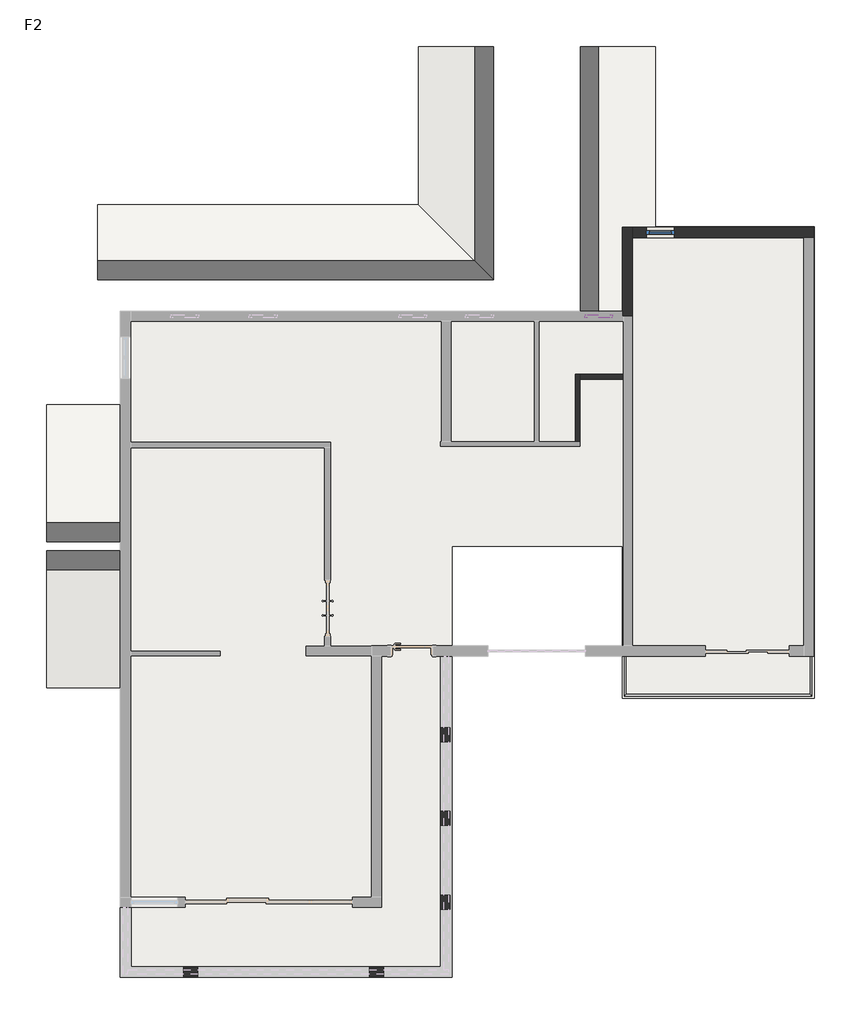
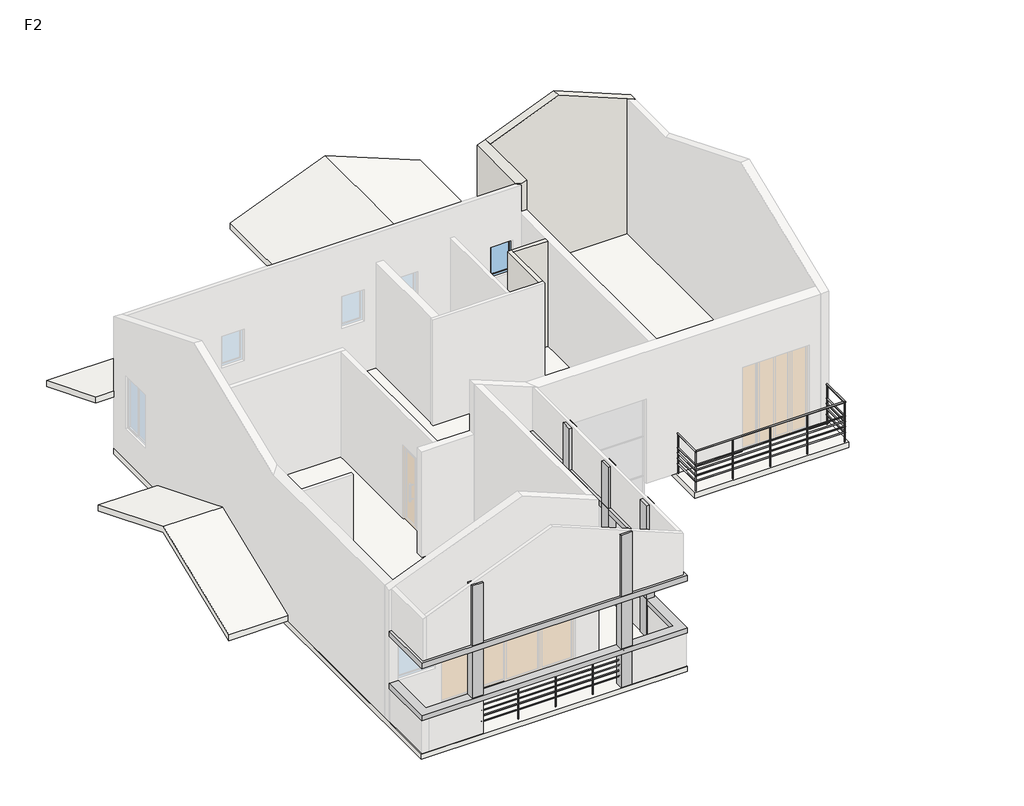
# One storey, part 2 of 2: 5 columns, 4 walls, 3 roofs, 2 railings, 2 windows, 1 proxy, 1 slab.
"""IFC4 building model written with IfcOpenShell, lengths in millimetres."""

from ifc_helpers import new_model, si_unit, point, frame, frame_2d, origin, place, context, project, spatial, polyline, circle_curve, ellipse_curve, trimmed, segment, composite_curve, outline, extrude, faceted_brep, transform, mapped, element, save
from ifc_brep_helpers import plane_surface, cylinder_surface, advanced_brep
from components import specialty_equipment_79bc4128, c0615_c0609_9743c050, c0615_c0615_013a5557

model = new_model("IFC4")

# Units and contexts
model_context = context("Model", 3, world=origin())
ifc_project = project(units=[si_unit("LENGTHUNIT", "METRE", prefix="MILLI")], contexts=[model_context])

# Site, building, storey
site = spatial("IfcSite", under=ifc_project)
building = spatial("IfcBuilding", under=site)
storey = spatial("IfcBuildingStorey", under=building, Name="F2", Elevation=3300.0)

# Proxy
placement = place(None, origin())
specialty_equipment_shape = specialty_equipment_79bc4128(model_context)
element("IfcBuildingElementProxy", 1, Name="专用设备 1 : 专用设备 1", ObjectType="专用设备 1 : 专用设备 1", at=placement, inside=storey, context=model_context, shape_type="MappedRepresentation", body=[
    mapped(specialty_equipment_shape, transform((0.0, 0.0, 0.0), x_axis=(1.0, 0.0, 0.0), y_axis=(0.0, 1.0, 0.0), z_axis=(0.0, 0.0, 1.0))),
])

# Columns
element("IfcColumn", 2, ObjectType="矩形柱 : 300*200", at=placement, inside=storey, context=model_context, shape_type="SweptSolid", body=[
    extrude(outline(polyline([(7057.5051541, -10075.9782681), (3300.0, -10075.9782681), (3300.0, -10055.9782681), (4250.0, -10055.9782681), (4250.0, -9875.9782681), (7057.5051541, -9875.9782681), (7057.5051541, -9905.9782681), (5885.0, -9905.9782681), (5885.0, -10005.9782681), (7057.5051541, -10005.9782681), (7057.5051541, -10075.9782681)])), frame((0.0, -10481.0286905, 0.0), z_axis=(0.0, 1.0, 0.0), x_axis=(0.0, 0.0, 1.0)), (0.0, 0.0, 1.0), 300.0),
])
element("IfcColumn", 3, ObjectType="矩形柱 : 300*200", at=placement, inside=storey, context=model_context, shape_type="SweptSolid", body=[
    extrude(outline(polyline([(7057.5051541, -10075.9782681), (3300.0, -10075.9782681), (3300.0, -10055.9782681), (4250.0, -10055.9782681), (4250.0, -9875.9782681), (7057.5051541, -9875.9782681), (7057.5051541, -9905.9782681), (5885.0, -9905.9782681), (5885.0, -10005.9782681), (7057.5051541, -10005.9782681), (7057.5051541, -10075.9782681)])), frame((0.0, -12281.0286905, 0.0), z_axis=(0.0, 1.0, 0.0), x_axis=(0.0, 0.0, 1.0)), (0.0, 0.0, 1.0), 300.0),
])
element("IfcColumn", 4, ObjectType="矩形柱 : 300*200", at=placement, inside=storey, context=model_context, shape_type="SweptSolid", body=[
    extrude(outline(polyline([(7057.5051541, -10075.9782681), (3300.0, -10075.9782681), (3300.0, -10055.9782681), (4250.0, -10055.9782681), (4250.0, -9875.9782681), (7057.5051541, -9875.9782681), (7057.5051541, -9905.9782681), (5885.0, -9905.9782681), (5885.0, -10005.9782681), (7057.5051541, -10005.9782681), (7057.5051541, -10075.9782681)])), frame((0.0, -14081.0286905, 0.0), z_axis=(0.0, 1.0, 0.0), x_axis=(0.0, 0.0, 1.0)), (0.0, 0.0, 1.0), 300.0),
])
element("IfcColumn", 5, ObjectType="矩形柱 : 300*200", at=placement, inside=storey, context=model_context, shape_type="Brep", body=[
    faceted_brep([(-11605.9782681, -15531.0286905, 7635.262657), (-11305.9782681, -15531.0286905, 7635.262657), (-11305.9782681, -15481.0286905, 7635.262657), (-11605.9782681, -15481.0286905, 7635.262657), (-11305.9782681, -15531.0286905, 3300.0), (-11605.9782681, -15531.0286905, 3300.0), (-11605.9782681, -15331.0286905, 3300.0), (-11305.9782681, -15331.0286905, 3300.0), (-11305.9782681, -15331.0286905, 4250.0), (-11305.9782681, -15331.0286905, 7635.262657), (-11305.9782681, -15381.0286905, 7635.262657), (-11305.9782681, -15381.0286905, 5885.0), (-11305.9782681, -15481.0286905, 5885.0), (-11305.9782681, -15531.0286905, 4250.0), (-11605.9782681, -15331.0286905, 7635.262657), (-11605.9782681, -15481.0286905, 5885.0), (-11605.9782681, -15381.0286905, 5885.0), (-11605.9782681, -15381.0286905, 7635.262657)], [[[0, 1, 2, 3]], [[4, 5, 6, 7]], [[4, 7, 8, 9, 10, 11, 12, 2, 1, 13]], [[14, 9, 8, 7, 6]], [[6, 5, 0, 3, 15, 16, 17, 14]], [[1, 0, 5, 4, 13]], [[12, 15, 3, 2]], [[16, 11, 10, 17]], [[15, 12, 11, 16]], [[9, 14, 17, 10]]]),
])
element("IfcColumn", 6, ObjectType="矩形柱 : 300*200", at=placement, inside=storey, context=model_context, shape_type="SweptSolid", body=[
    extrude(outline(polyline([(-15331.0286905, 7594.8600344), (-15331.0286905, 4250.0), (-15531.0286905, 4250.0), (-15531.0286905, 7594.8600344), (-15481.0286905, 7594.8600344), (-15481.0286905, 5885.0), (-15381.0286905, 5885.0), (-15381.0286905, 7594.8600344), (-15331.0286905, 7594.8600344)])), frame((-15605.9782681, 0.0, 0.0), z_axis=(1.0, 0.0, 0.0), x_axis=(0.0, 1.0, 0.0)), (0.0, 0.0, 1.0), 300.0),
])

# Railings
element("IfcRailing", 7, ObjectType="900mm 圆管", at=placement, inside=storey, context=model_context, shape_type="SolidModel", body=[
    advanced_brep(
    [(-2125.9782681, -8651.0286905, 4430.0), (-2085.9782681, -8651.0286905, 4430.0), (-2125.9782681, -9461.0286905, 4430.0), (-2085.9782681, -9501.0286905, 4430.0), (-6085.9782681, -9461.0286905, 4430.0), (-6125.9782681, -9501.0286905, 4430.0), (-6085.9782681, -8651.0286905, 4430.0), (-6125.9782681, -8651.0286905, 4430.0)],
    [
        (0, 1, circle_curve(frame((-2105.9782681, -8651.0286905, 4430.0), z_axis=(0.0, 1.0, 0.0), x_axis=(1.0, 0.0, 0.0)), 20.0)),
        (1, 0, circle_curve(frame((-2105.9782681, -8651.0286905, 4430.0), z_axis=(0.0, 1.0, 0.0), x_axis=(1.0, 0.0, 0.0)), 20.0)),
        (0, 2),
        (2, 3, ellipse_curve(frame((-2105.9782681, -9481.0286905, 4430.0), z_axis=(0.7071067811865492, 0.7071067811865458, 0.0), x_axis=(-0.7071067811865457, 0.7071067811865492, 0.0)), 28.2842712, 20.0)),
        (3, 1),
        (3, 2, ellipse_curve(frame((-2105.9782681, -9481.0286905, 4430.0), z_axis=(0.7071067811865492, 0.7071067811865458, 0.0), x_axis=(-0.7071067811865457, 0.7071067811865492, 0.0)), 28.2842712, 20.0)),
        (2, 4),
        (4, 5, ellipse_curve(frame((-6105.9782681, -9481.0286905, 4430.0), z_axis=(0.7071067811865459, -0.7071067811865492, 0.0), x_axis=(0.707106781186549, 0.7071067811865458, 0.0)), 28.2842712, 20.0)),
        (5, 3),
        (5, 4, ellipse_curve(frame((-6105.9782681, -9481.0286905, 4430.0), z_axis=(0.7071067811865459, -0.7071067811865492, 0.0), x_axis=(0.707106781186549, 0.7071067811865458, 0.0)), 28.2842712, 20.0)),
        (6, 7, circle_curve(frame((-6105.9782681, -8651.0286905, 4430.0), z_axis=(0.0, 1.0, 0.0), x_axis=(-1.0, 0.0, 0.0)), 20.0)),
        (7, 6, circle_curve(frame((-6105.9782681, -8651.0286905, 4430.0), z_axis=(0.0, 1.0, 0.0), x_axis=(-1.0, 0.0, 0.0)), 20.0)),
        (4, 6),
        (7, 5),
    ],
    [
        plane_surface(frame((-2105.9782681, -8651.0286905, 4450.0), z_axis=(0.0, 1.0, 0.0), x_axis=(0.0, 0.0, -1.0))),
        cylinder_surface(frame((-2105.9782681, -8651.0286905, 4430.0), z_axis=(0.0, 1.0, 0.0), x_axis=(1.0, 0.0, 0.0)), 20.0),
        cylinder_surface(frame((-2105.9782681, -9481.0286905, 4430.0), z_axis=(1.0, 0.0, 0.0), x_axis=(0.0, -1.0, 0.0)), 20.0),
        plane_surface(frame((-6105.9782681, -8651.0286905, 4450.0), z_axis=(0.0, 1.0, 0.0), x_axis=(0.0, 0.0, 1.0))),
        cylinder_surface(frame((-6105.9782681, -9481.0286905, 4430.0), z_axis=(0.0, -1.0, 0.0), x_axis=(-1.0, 0.0, 0.0)), 20.0),
    ],
    [
        (0, [[1, 2]]),
        (1, [[-1, 3, 4, 5]]),
        (1, [[-2, -5, 6, -3]]),
        (2, [[-4, 7, 8, 9]]),
        (2, [[-6, -9, 10, -7]]),
        (3, [[11, 12]]),
        (4, [[-8, 13, -12, 14]]),
        (4, [[-10, -14, -11, -13]]),
    ],
),
    advanced_brep(
    [(-2090.9782681, -8651.0286905, 4035.0), (-2120.9782681, -8651.0286905, 4035.0), (-2090.9782681, -9496.0286905, 4035.0), (-2120.9782681, -9466.0286905, 4035.0), (-6120.9782681, -9496.0286905, 4035.0), (-6090.9782681, -9466.0286905, 4035.0), (-6120.9782681, -8651.0286905, 4035.0), (-6090.9782681, -8651.0286905, 4035.0)],
    [
        (0, 1, circle_curve(frame((-2105.9782681, -8651.0286905, 4035.0), z_axis=(0.0, 1.0, 0.0), x_axis=(-1.0, 0.0, 0.0)), 15.0)),
        (1, 0, circle_curve(frame((-2105.9782681, -8651.0286905, 4035.0), z_axis=(0.0, 1.0, 0.0), x_axis=(-1.0, 0.0, 0.0)), 15.0)),
        (0, 2),
        (2, 3, ellipse_curve(frame((-2105.9782681, -9481.0286905, 4035.0), z_axis=(0.7071067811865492, 0.7071067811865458, 0.0), x_axis=(-0.7071067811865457, 0.7071067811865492, 0.0)), 21.2132034, 15.0)),
        (3, 1),
        (3, 2, ellipse_curve(frame((-2105.9782681, -9481.0286905, 4035.0), z_axis=(0.7071067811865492, 0.7071067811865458, 0.0), x_axis=(-0.7071067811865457, 0.7071067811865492, 0.0)), 21.2132034, 15.0)),
        (2, 4),
        (4, 5, ellipse_curve(frame((-6105.9782681, -9481.0286905, 4035.0), z_axis=(0.7071067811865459, -0.7071067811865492, 0.0), x_axis=(0.707106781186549, 0.7071067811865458, 0.0)), 21.2132034, 15.0)),
        (5, 3),
        (5, 4, ellipse_curve(frame((-6105.9782681, -9481.0286905, 4035.0), z_axis=(0.7071067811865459, -0.7071067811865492, 0.0), x_axis=(0.707106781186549, 0.7071067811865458, 0.0)), 21.2132034, 15.0)),
        (6, 7, circle_curve(frame((-6105.9782681, -8651.0286905, 4035.0), z_axis=(0.0, 1.0, 0.0), x_axis=(1.0, 0.0, 0.0)), 15.0)),
        (7, 6, circle_curve(frame((-6105.9782681, -8651.0286905, 4035.0), z_axis=(0.0, 1.0, 0.0), x_axis=(1.0, 0.0, 0.0)), 15.0)),
        (4, 6),
        (7, 5),
    ],
    [
        plane_surface(frame((-2105.9782681, -8651.0286905, 4050.0), z_axis=(0.0, 1.0, 0.0), x_axis=(0.0, 0.0, -1.0))),
        cylinder_surface(frame((-2105.9782681, -8651.0286905, 4035.0), z_axis=(0.0, 1.0, 0.0), x_axis=(-1.0, 0.0, 0.0)), 15.0),
        cylinder_surface(frame((-2105.9782681, -9481.0286905, 4035.0), z_axis=(1.0, 0.0, 0.0), x_axis=(0.0, 1.0, 0.0)), 15.0),
        plane_surface(frame((-6105.9782681, -8651.0286905, 4050.0), z_axis=(0.0, 1.0, 0.0), x_axis=(0.0, 0.0, 1.0))),
        cylinder_surface(frame((-6105.9782681, -9481.0286905, 4035.0), z_axis=(0.0, -1.0, 0.0), x_axis=(1.0, 0.0, 0.0)), 15.0),
    ],
    [
        (0, [[1, 2]]),
        (1, [[-1, 3, 4, 5]]),
        (1, [[-2, -5, 6, -3]]),
        (2, [[-4, 7, 8, 9]]),
        (2, [[-6, -9, 10, -7]]),
        (3, [[11, 12]]),
        (4, [[-8, 13, -12, 14]]),
        (4, [[-10, -14, -11, -13]]),
    ],
),
    advanced_brep(
    [(-2090.9782681, -8651.0286905, 3885.0), (-2120.9782681, -8651.0286905, 3885.0), (-2090.9782681, -9496.0286905, 3885.0), (-2120.9782681, -9466.0286905, 3885.0), (-6120.9782681, -9496.0286905, 3885.0), (-6090.9782681, -9466.0286905, 3885.0), (-6120.9782681, -8651.0286905, 3885.0), (-6090.9782681, -8651.0286905, 3885.0)],
    [
        (0, 1, circle_curve(frame((-2105.9782681, -8651.0286905, 3885.0), z_axis=(0.0, 1.0, 0.0), x_axis=(-1.0, 0.0, 0.0)), 15.0)),
        (1, 0, circle_curve(frame((-2105.9782681, -8651.0286905, 3885.0), z_axis=(0.0, 1.0, 0.0), x_axis=(-1.0, 0.0, 0.0)), 15.0)),
        (0, 2),
        (2, 3, ellipse_curve(frame((-2105.9782681, -9481.0286905, 3885.0), z_axis=(0.7071067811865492, 0.7071067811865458, 0.0), x_axis=(-0.7071067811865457, 0.7071067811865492, 0.0)), 21.2132034, 15.0)),
        (3, 1),
        (3, 2, ellipse_curve(frame((-2105.9782681, -9481.0286905, 3885.0), z_axis=(0.7071067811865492, 0.7071067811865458, 0.0), x_axis=(-0.7071067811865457, 0.7071067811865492, 0.0)), 21.2132034, 15.0)),
        (2, 4),
        (4, 5, ellipse_curve(frame((-6105.9782681, -9481.0286905, 3885.0), z_axis=(0.7071067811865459, -0.7071067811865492, 0.0), x_axis=(0.707106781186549, 0.7071067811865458, 0.0)), 21.2132034, 15.0)),
        (5, 3),
        (5, 4, ellipse_curve(frame((-6105.9782681, -9481.0286905, 3885.0), z_axis=(0.7071067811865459, -0.7071067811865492, 0.0), x_axis=(0.707106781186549, 0.7071067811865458, 0.0)), 21.2132034, 15.0)),
        (6, 7, circle_curve(frame((-6105.9782681, -8651.0286905, 3885.0), z_axis=(0.0, 1.0, 0.0), x_axis=(1.0, 0.0, 0.0)), 15.0)),
        (7, 6, circle_curve(frame((-6105.9782681, -8651.0286905, 3885.0), z_axis=(0.0, 1.0, 0.0), x_axis=(1.0, 0.0, 0.0)), 15.0)),
        (4, 6),
        (7, 5),
    ],
    [
        plane_surface(frame((-2105.9782681, -8651.0286905, 3900.0), z_axis=(0.0, 1.0, 0.0), x_axis=(0.0, 0.0, -1.0))),
        cylinder_surface(frame((-2105.9782681, -8651.0286905, 3885.0), z_axis=(0.0, 1.0, 0.0), x_axis=(-1.0, 0.0, 0.0)), 15.0),
        cylinder_surface(frame((-2105.9782681, -9481.0286905, 3885.0), z_axis=(1.0, 0.0, 0.0), x_axis=(0.0, 1.0, 0.0)), 15.0),
        plane_surface(frame((-6105.9782681, -8651.0286905, 3900.0), z_axis=(0.0, 1.0, 0.0), x_axis=(0.0, 0.0, 1.0))),
        cylinder_surface(frame((-6105.9782681, -9481.0286905, 3885.0), z_axis=(0.0, -1.0, 0.0), x_axis=(1.0, 0.0, 0.0)), 15.0),
    ],
    [
        (0, [[1, 2]]),
        (1, [[-1, 3, 4, 5]]),
        (1, [[-2, -5, 6, -3]]),
        (2, [[-4, 7, 8, 9]]),
        (2, [[-6, -9, 10, -7]]),
        (3, [[11, 12]]),
        (4, [[-8, 13, -12, 14]]),
        (4, [[-10, -14, -11, -13]]),
    ],
),
    advanced_brep(
    [(-2090.9782681, -8651.0286905, 3735.0), (-2120.9782681, -8651.0286905, 3735.0), (-2090.9782681, -9496.0286905, 3735.0), (-2120.9782681, -9466.0286905, 3735.0), (-6120.9782681, -9496.0286905, 3735.0), (-6090.9782681, -9466.0286905, 3735.0), (-6120.9782681, -8651.0286905, 3735.0), (-6090.9782681, -8651.0286905, 3735.0)],
    [
        (0, 1, circle_curve(frame((-2105.9782681, -8651.0286905, 3735.0), z_axis=(0.0, 1.0, 0.0), x_axis=(-1.0, 0.0, 0.0)), 15.0)),
        (1, 0, circle_curve(frame((-2105.9782681, -8651.0286905, 3735.0), z_axis=(0.0, 1.0, 0.0), x_axis=(-1.0, 0.0, 0.0)), 15.0)),
        (0, 2),
        (2, 3, ellipse_curve(frame((-2105.9782681, -9481.0286905, 3735.0), z_axis=(0.7071067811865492, 0.7071067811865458, 0.0), x_axis=(-0.7071067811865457, 0.7071067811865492, 0.0)), 21.2132034, 15.0)),
        (3, 1),
        (3, 2, ellipse_curve(frame((-2105.9782681, -9481.0286905, 3735.0), z_axis=(0.7071067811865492, 0.7071067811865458, 0.0), x_axis=(-0.7071067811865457, 0.7071067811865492, 0.0)), 21.2132034, 15.0)),
        (2, 4),
        (4, 5, ellipse_curve(frame((-6105.9782681, -9481.0286905, 3735.0), z_axis=(0.7071067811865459, -0.7071067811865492, 0.0), x_axis=(0.707106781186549, 0.7071067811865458, 0.0)), 21.2132034, 15.0)),
        (5, 3),
        (5, 4, ellipse_curve(frame((-6105.9782681, -9481.0286905, 3735.0), z_axis=(0.7071067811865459, -0.7071067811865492, 0.0), x_axis=(0.707106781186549, 0.7071067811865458, 0.0)), 21.2132034, 15.0)),
        (6, 7, circle_curve(frame((-6105.9782681, -8651.0286905, 3735.0), z_axis=(0.0, 1.0, 0.0), x_axis=(1.0, 0.0, 0.0)), 15.0)),
        (7, 6, circle_curve(frame((-6105.9782681, -8651.0286905, 3735.0), z_axis=(0.0, 1.0, 0.0), x_axis=(1.0, 0.0, 0.0)), 15.0)),
        (4, 6),
        (7, 5),
    ],
    [
        plane_surface(frame((-2105.9782681, -8651.0286905, 3750.0), z_axis=(0.0, 1.0, 0.0), x_axis=(0.0, 0.0, -1.0))),
        cylinder_surface(frame((-2105.9782681, -8651.0286905, 3735.0), z_axis=(0.0, 1.0, 0.0), x_axis=(-1.0, 0.0, 0.0)), 15.0),
        cylinder_surface(frame((-2105.9782681, -9481.0286905, 3735.0), z_axis=(1.0, 0.0, 0.0), x_axis=(0.0, 1.0, 0.0)), 15.0),
        plane_surface(frame((-6105.9782681, -8651.0286905, 3750.0), z_axis=(0.0, 1.0, 0.0), x_axis=(0.0, 0.0, 1.0))),
        cylinder_surface(frame((-6105.9782681, -9481.0286905, 3735.0), z_axis=(0.0, -1.0, 0.0), x_axis=(1.0, 0.0, 0.0)), 15.0),
    ],
    [
        (0, [[1, 2]]),
        (1, [[-1, 3, 4, 5]]),
        (1, [[-2, -5, 6, -3]]),
        (2, [[-4, 7, 8, 9]]),
        (2, [[-6, -9, 10, -7]]),
        (3, [[11, 12]]),
        (4, [[-8, 13, -12, 14]]),
        (4, [[-10, -14, -11, -13]]),
    ],
),
    advanced_brep(
    [(-2090.9782681, -8651.0286905, 3573.0), (-2120.9782681, -8651.0286905, 3573.0), (-2090.9782681, -9496.0286905, 3573.0), (-2120.9782681, -9466.0286905, 3573.0), (-6120.9782681, -9496.0286905, 3573.0), (-6090.9782681, -9466.0286905, 3573.0), (-6120.9782681, -8651.0286905, 3573.0), (-6090.9782681, -8651.0286905, 3573.0)],
    [
        (0, 1, circle_curve(frame((-2105.9782681, -8651.0286905, 3573.0), z_axis=(0.0, 1.0, 0.0), x_axis=(-1.0, 0.0, 0.0)), 15.0)),
        (1, 0, circle_curve(frame((-2105.9782681, -8651.0286905, 3573.0), z_axis=(0.0, 1.0, 0.0), x_axis=(-1.0, 0.0, 0.0)), 15.0)),
        (0, 2),
        (2, 3, ellipse_curve(frame((-2105.9782681, -9481.0286905, 3573.0), z_axis=(0.7071067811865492, 0.7071067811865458, 0.0), x_axis=(-0.7071067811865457, 0.7071067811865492, 0.0)), 21.2132034, 15.0)),
        (3, 1),
        (3, 2, ellipse_curve(frame((-2105.9782681, -9481.0286905, 3573.0), z_axis=(0.7071067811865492, 0.7071067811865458, 0.0), x_axis=(-0.7071067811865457, 0.7071067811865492, 0.0)), 21.2132034, 15.0)),
        (2, 4),
        (4, 5, ellipse_curve(frame((-6105.9782681, -9481.0286905, 3573.0), z_axis=(0.7071067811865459, -0.7071067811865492, 0.0), x_axis=(0.707106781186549, 0.7071067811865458, 0.0)), 21.2132034, 15.0)),
        (5, 3),
        (5, 4, ellipse_curve(frame((-6105.9782681, -9481.0286905, 3573.0), z_axis=(0.7071067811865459, -0.7071067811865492, 0.0), x_axis=(0.707106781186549, 0.7071067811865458, 0.0)), 21.2132034, 15.0)),
        (6, 7, circle_curve(frame((-6105.9782681, -8651.0286905, 3573.0), z_axis=(0.0, 1.0, 0.0), x_axis=(1.0, 0.0, 0.0)), 15.0)),
        (7, 6, circle_curve(frame((-6105.9782681, -8651.0286905, 3573.0), z_axis=(0.0, 1.0, 0.0), x_axis=(1.0, 0.0, 0.0)), 15.0)),
        (4, 6),
        (7, 5),
    ],
    [
        plane_surface(frame((-2105.9782681, -8651.0286905, 3588.0), z_axis=(0.0, 1.0, 0.0), x_axis=(0.0, 0.0, -1.0))),
        cylinder_surface(frame((-2105.9782681, -8651.0286905, 3573.0), z_axis=(0.0, 1.0, 0.0), x_axis=(-1.0, 0.0, 0.0)), 15.0),
        cylinder_surface(frame((-2105.9782681, -9481.0286905, 3573.0), z_axis=(1.0, 0.0, 0.0), x_axis=(0.0, 1.0, 0.0)), 15.0),
        plane_surface(frame((-6105.9782681, -8651.0286905, 3588.0), z_axis=(0.0, 1.0, 0.0), x_axis=(0.0, 0.0, 1.0))),
        cylinder_surface(frame((-6105.9782681, -9481.0286905, 3573.0), z_axis=(0.0, -1.0, 0.0), x_axis=(1.0, 0.0, 0.0)), 15.0),
    ],
    [
        (0, [[1, 2]]),
        (1, [[-1, 3, 4, 5]]),
        (1, [[-2, -5, 6, -3]]),
        (2, [[-4, 7, 8, 9]]),
        (2, [[-6, -9, 10, -7]]),
        (3, [[11, 12]]),
        (4, [[-8, 13, -12, 14]]),
        (4, [[-10, -14, -11, -13]]),
    ],
),
    extrude(outline(composite_curve([segment(trimmed(circle_curve(frame_2d((-5105.9782681, -9481.0286905)), 12.5), [point((-5105.9782681, -9493.5286905))], [point((-5105.9782681, -9468.5286905))], False, "CARTESIAN"), True, "CONTINUOUS"), segment(trimmed(circle_curve(frame_2d((-5105.9782681, -9481.0286905)), 12.5), [point((-5105.9782681, -9468.5286905))], [point((-5105.9782681, -9493.5286905))], False, "CARTESIAN"), True, "CONTINUOUS")], self_intersect=False)), frame((0.0, 0.0, 3300.0), z_axis=(0.0, 0.0, 1.0), x_axis=(1.0, 0.0, 0.0)), (0.0, 0.0, 1.0), 1110.0),
    extrude(outline(composite_curve([segment(trimmed(circle_curve(frame_2d((-4105.9782681, -9481.0286905)), 12.5), [point((-4105.9782681, -9493.5286905))], [point((-4105.9782681, -9468.5286905))], False, "CARTESIAN"), True, "CONTINUOUS"), segment(trimmed(circle_curve(frame_2d((-4105.9782681, -9481.0286905)), 12.5), [point((-4105.9782681, -9468.5286905))], [point((-4105.9782681, -9493.5286905))], False, "CARTESIAN"), True, "CONTINUOUS")], self_intersect=False)), frame((0.0, 0.0, 3300.0), z_axis=(0.0, 0.0, 1.0), x_axis=(1.0, 0.0, 0.0)), (0.0, 0.0, 1.0), 1110.0),
    extrude(outline(composite_curve([segment(trimmed(circle_curve(frame_2d((-3105.9782681, -9481.0286905)), 12.5), [point((-3105.9782681, -9493.5286905))], [point((-3105.9782681, -9468.5286905))], False, "CARTESIAN"), True, "CONTINUOUS"), segment(trimmed(circle_curve(frame_2d((-3105.9782681, -9481.0286905)), 12.5), [point((-3105.9782681, -9468.5286905))], [point((-3105.9782681, -9493.5286905))], False, "CARTESIAN"), True, "CONTINUOUS")], self_intersect=False)), frame((0.0, 0.0, 3300.0), z_axis=(0.0, 0.0, 1.0), x_axis=(1.0, 0.0, 0.0)), (0.0, 0.0, 1.0), 1110.0),
    extrude(outline(composite_curve([segment(trimmed(circle_curve(frame_2d((-6105.9782681, -9481.0286905)), 12.5), [point((-6105.9782681, -9493.5286905))], [point((-6105.9782681, -9468.5286905))], False, "CARTESIAN"), True, "CONTINUOUS"), segment(trimmed(circle_curve(frame_2d((-6105.9782681, -9481.0286905)), 12.5), [point((-6105.9782681, -9468.5286905))], [point((-6105.9782681, -9493.5286905))], False, "CARTESIAN"), True, "CONTINUOUS")], self_intersect=False)), frame((0.0, 0.0, 3300.0), z_axis=(0.0, 0.0, 1.0), x_axis=(1.0, 0.0, 0.0)), (0.0, 0.0, 1.0), 1110.0),
    extrude(outline(composite_curve([segment(trimmed(circle_curve(frame_2d((-2105.9782681, -9481.0286905)), 12.5), [point((-2093.4782681, -9481.0286905))], [point((-2118.4782681, -9481.0286905))], False, "CARTESIAN"), True, "CONTINUOUS"), segment(trimmed(circle_curve(frame_2d((-2105.9782681, -9481.0286905)), 12.5), [point((-2118.4782681, -9481.0286905))], [point((-2093.4782681, -9481.0286905))], False, "CARTESIAN"), True, "CONTINUOUS")], self_intersect=False)), frame((0.0, 0.0, 3300.0), z_axis=(0.0, 0.0, 1.0), x_axis=(1.0, 0.0, 0.0)), (0.0, 0.0, 1.0), 1110.0),
    extrude(outline(composite_curve([segment(trimmed(circle_curve(frame_2d((-6105.9782681, -8663.5286905)), 12.5), [point((-6118.4782681, -8663.5286905))], [point((-6093.4782681, -8663.5286905))], False, "CARTESIAN"), True, "CONTINUOUS"), segment(trimmed(circle_curve(frame_2d((-6105.9782681, -8663.5286905)), 12.5), [point((-6093.4782681, -8663.5286905))], [point((-6118.4782681, -8663.5286905))], False, "CARTESIAN"), True, "CONTINUOUS")], self_intersect=False)), frame((0.0, 0.0, 3300.0), z_axis=(0.0, 0.0, 1.0), x_axis=(1.0, 0.0, 0.0)), (0.0, 0.0, 1.0), 1110.0),
    extrude(outline(composite_curve([segment(trimmed(circle_curve(frame_2d((-2105.9782681, -8663.5286905)), 12.5), [point((-2093.4782681, -8663.5286905))], [point((-2118.4782681, -8663.5286905))], False, "CARTESIAN"), True, "CONTINUOUS"), segment(trimmed(circle_curve(frame_2d((-2105.9782681, -8663.5286905)), 12.5), [point((-2118.4782681, -8663.5286905))], [point((-2093.4782681, -8663.5286905))], False, "CARTESIAN"), True, "CONTINUOUS")], self_intersect=False)), frame((0.0, 0.0, 3300.0), z_axis=(0.0, 0.0, 1.0), x_axis=(1.0, 0.0, 0.0)), (0.0, 0.0, 1.0), 1110.0),
])
element("IfcRailing", 8, ObjectType="900mm 圆管 2", at=placement, inside=storey, context=model_context, shape_type="SweptSolid", body=[
    extrude(outline(composite_curve([segment(trimmed(circle_curve(frame_2d((-15431.0286905, 4280.0)), 20.0), [point((-15451.0286905, 4280.0))], [point((-15411.0286905, 4280.0))], False, "CARTESIAN"), True, "CONTINUOUS"), segment(trimmed(circle_curve(frame_2d((-15431.0286905, 4280.0)), 20.0), [point((-15411.0286905, 4280.0))], [point((-15451.0286905, 4280.0))], False, "CARTESIAN"), True, "CONTINUOUS")], self_intersect=False)), frame((-15305.9782681, 0.0, 0.0), z_axis=(1.0, 0.0, 0.0), x_axis=(0.0, 1.0, 0.0)), (0.0, 0.0, 1.0), 3850.0),
    extrude(outline(composite_curve([segment(trimmed(circle_curve(frame_2d((-15431.0286905, 4035.0)), 15.0), [point((-15416.0286905, 4035.0))], [point((-15446.0286905, 4035.0))], False, "CARTESIAN"), True, "CONTINUOUS"), segment(trimmed(circle_curve(frame_2d((-15431.0286905, 4035.0)), 15.0), [point((-15446.0286905, 4035.0))], [point((-15416.0286905, 4035.0))], False, "CARTESIAN"), True, "CONTINUOUS")], self_intersect=False)), frame((-15305.9782681, 0.0, 0.0), z_axis=(1.0, 0.0, 0.0), x_axis=(0.0, 1.0, 0.0)), (0.0, 0.0, 1.0), 3850.0),
    extrude(outline(composite_curve([segment(trimmed(circle_curve(frame_2d((-15431.0286905, 3885.0)), 15.0), [point((-15416.0286905, 3885.0))], [point((-15446.0286905, 3885.0))], False, "CARTESIAN"), True, "CONTINUOUS"), segment(trimmed(circle_curve(frame_2d((-15431.0286905, 3885.0)), 15.0), [point((-15446.0286905, 3885.0))], [point((-15416.0286905, 3885.0))], False, "CARTESIAN"), True, "CONTINUOUS")], self_intersect=False)), frame((-15305.9782681, 0.0, 0.0), z_axis=(1.0, 0.0, 0.0), x_axis=(0.0, 1.0, 0.0)), (0.0, 0.0, 1.0), 3850.0),
    extrude(outline(composite_curve([segment(trimmed(circle_curve(frame_2d((-15431.0286905, 3735.0)), 15.0), [point((-15416.0286905, 3735.0))], [point((-15446.0286905, 3735.0))], False, "CARTESIAN"), True, "CONTINUOUS"), segment(trimmed(circle_curve(frame_2d((-15431.0286905, 3735.0)), 15.0), [point((-15446.0286905, 3735.0))], [point((-15416.0286905, 3735.0))], False, "CARTESIAN"), True, "CONTINUOUS")], self_intersect=False)), frame((-15305.9782681, 0.0, 0.0), z_axis=(1.0, 0.0, 0.0), x_axis=(0.0, 1.0, 0.0)), (0.0, 0.0, 1.0), 3850.0),
    extrude(outline(composite_curve([segment(trimmed(circle_curve(frame_2d((-15431.0286905, 3573.0)), 15.0), [point((-15416.0286905, 3573.0))], [point((-15446.0286905, 3573.0))], False, "CARTESIAN"), True, "CONTINUOUS"), segment(trimmed(circle_curve(frame_2d((-15431.0286905, 3573.0)), 15.0), [point((-15446.0286905, 3573.0))], [point((-15416.0286905, 3573.0))], False, "CARTESIAN"), True, "CONTINUOUS")], self_intersect=False)), frame((-15305.9782681, 0.0, 0.0), z_axis=(1.0, 0.0, 0.0), x_axis=(0.0, 1.0, 0.0)), (0.0, 0.0, 1.0), 3850.0),
    extrude(outline(composite_curve([segment(trimmed(circle_curve(frame_2d((-12305.9782681, -15431.0286905)), 12.5), [point((-12305.9782681, -15418.5286905))], [point((-12305.9782681, -15443.5286905))], False, "CARTESIAN"), True, "CONTINUOUS"), segment(trimmed(circle_curve(frame_2d((-12305.9782681, -15431.0286905)), 12.5), [point((-12305.9782681, -15443.5286905))], [point((-12305.9782681, -15418.5286905))], False, "CARTESIAN"), True, "CONTINUOUS")], self_intersect=False)), frame((0.0, 0.0, 3300.0), z_axis=(0.0, 0.0, 1.0), x_axis=(1.0, 0.0, 0.0)), (0.0, 0.0, 1.0), 960.0),
    extrude(outline(composite_curve([segment(trimmed(circle_curve(frame_2d((-13305.9782681, -15431.0286905)), 12.5), [point((-13305.9782681, -15418.5286905))], [point((-13305.9782681, -15443.5286905))], False, "CARTESIAN"), True, "CONTINUOUS"), segment(trimmed(circle_curve(frame_2d((-13305.9782681, -15431.0286905)), 12.5), [point((-13305.9782681, -15443.5286905))], [point((-13305.9782681, -15418.5286905))], False, "CARTESIAN"), True, "CONTINUOUS")], self_intersect=False)), frame((0.0, 0.0, 3300.0), z_axis=(0.0, 0.0, 1.0), x_axis=(1.0, 0.0, 0.0)), (0.0, 0.0, 1.0), 960.0),
    extrude(outline(composite_curve([segment(trimmed(circle_curve(frame_2d((-14305.9782681, -15431.0286905)), 12.5), [point((-14305.9782681, -15418.5286905))], [point((-14305.9782681, -15443.5286905))], False, "CARTESIAN"), True, "CONTINUOUS"), segment(trimmed(circle_curve(frame_2d((-14305.9782681, -15431.0286905)), 12.5), [point((-14305.9782681, -15443.5286905))], [point((-14305.9782681, -15418.5286905))], False, "CARTESIAN"), True, "CONTINUOUS")], self_intersect=False)), frame((0.0, 0.0, 3300.0), z_axis=(0.0, 0.0, 1.0), x_axis=(1.0, 0.0, 0.0)), (0.0, 0.0, 1.0), 960.0),
    extrude(outline(composite_curve([segment(trimmed(circle_curve(frame_2d((-11468.4782681, -15431.0286905)), 12.5), [point((-11468.4782681, -15418.5286905))], [point((-11468.4782681, -15443.5286905))], False, "CARTESIAN"), True, "CONTINUOUS"), segment(trimmed(circle_curve(frame_2d((-11468.4782681, -15431.0286905)), 12.5), [point((-11468.4782681, -15443.5286905))], [point((-11468.4782681, -15418.5286905))], False, "CARTESIAN"), True, "CONTINUOUS")], self_intersect=False)), frame((0.0, 0.0, 3300.0), z_axis=(0.0, 0.0, 1.0), x_axis=(1.0, 0.0, 0.0)), (0.0, 0.0, 1.0), 960.0),
    extrude(outline(composite_curve([segment(trimmed(circle_curve(frame_2d((-15293.4782681, -15431.0286905)), 12.5), [point((-15293.4782681, -15418.5286905))], [point((-15293.4782681, -15443.5286905))], False, "CARTESIAN"), True, "CONTINUOUS"), segment(trimmed(circle_curve(frame_2d((-15293.4782681, -15431.0286905)), 12.5), [point((-15293.4782681, -15443.5286905))], [point((-15293.4782681, -15418.5286905))], False, "CARTESIAN"), True, "CONTINUOUS")], self_intersect=False)), frame((0.0, 0.0, 3300.0), z_axis=(0.0, 0.0, 1.0), x_axis=(1.0, 0.0, 0.0)), (0.0, 0.0, 1.0), 960.0),
])

# Roofs
element("IfcRoof", 9, ObjectType="屋顶 2", at=placement, inside=storey, context=model_context, shape_type="Brep", body=[
    faceted_brep([(-8005.9782681, 4468.9713095, 4877.6783925), (-5455.9782681, 4468.9713095, 3847.4115166), (-5455.9782681, 588.9713095, 3847.4115166), (-6175.9782681, 588.9713095, 4138.3103992), (-6175.9782681, -1221.0286905, 4138.3103992), (-8005.9782681, -1221.0286905, 4877.6783925), (-10555.9782681, 1068.9713095, 3847.4115166), (-10555.9782681, 4468.9713095, 3847.4115166), (-8265.9782681, -1221.0286905, 4772.6315738), (-5455.9782681, 4468.9713095, 4011.7802114), (-8005.9782681, 4468.9713095, 5042.0470873), (-8005.9782681, -1221.0286905, 5042.0470873), (-6175.9782681, -1221.0286905, 4302.679094), (-6175.9782681, 588.9713095, 4302.679094), (-5455.9782681, 588.9713095, 4011.7802114), (-10555.9782681, 4468.9713095, 4011.7802114), (-10555.9782681, 1068.9713095, 4011.7802114), (-8265.9782681, -1221.0286905, 4937.0002686)], [[[0, 1, 2, 3, 4, 5]], [[6, 7, 0, 5, 8]], [[9, 10, 11, 12, 13, 14]], [[15, 16, 17, 11, 10]], [[6, 16, 15, 7]], [[1, 9, 14, 2]], [[15, 10, 9, 1, 0, 7]], [[14, 13, 3, 2]], [[13, 12, 4, 3]], [[12, 11, 17, 8, 5, 4]], [[17, 16, 6, 8]]]),
])
element("IfcRoof", 10, ObjectType="屋顶 2", at=placement, inside=storey, context=model_context, shape_type="Brep", body=[
    faceted_brep([(-10555.9782681, 1068.9713095, 3847.4115166), (-8265.9782681, -1221.0286905, 4772.6315738), (-17455.9782681, -1221.0286905, 4772.6315738), (-17455.9782681, 1068.9713095, 3847.4115166), (-8265.9782681, -1221.0286905, 4937.0002686), (-10555.9782681, 1068.9713095, 4011.7802114), (-17455.9782681, 1068.9713095, 4011.7802114), (-17455.9782681, -1221.0286905, 4937.0002686)], [[[0, 1, 2, 3]], [[4, 5, 6, 7]], [[3, 6, 5, 0]], [[5, 4, 1, 0]], [[4, 7, 2, 1]], [[7, 6, 3, 2]]]),
])
element("IfcRoof", 11, ObjectType="屋顶 2", at=placement, inside=storey, context=model_context, shape_type="SweptSolid", body=[
    extrude(outline(polyline([(-9321.0286905, 3473.4754526), (-6277.4626315, 4703.1559604), (-3233.8965726, 3473.4754526), (-3233.8965726, 3309.1067578), (-6277.4626315, 4538.7872656), (-9321.0286905, 3309.1067578), (-9321.0286905, 3473.4754526)])), frame((-18555.9782681, 0.0, 0.0), z_axis=(1.0, 0.0, 0.0), x_axis=(0.0, 1.0, 0.0)), (0.0, 0.0, 1.0), 1600.0),
])

# Slab
element("IfcSlab", 12, ObjectType="常规 - 150mm", at=placement, inside=storey, context=model_context, shape_type="SweptSolid", body=[
    extrude(outline(polyline([(-9835.9782681, -15541.0286905), (-16975.9782681, -15541.0286905), (-16975.9782681, -1221.0286905), (-6175.9782681, -1221.0286905), (-6175.9782681, 588.9713095), (-2035.9782681, 588.9713095), (-2035.9782681, -9541.0286905), (-6165.9782681, -9541.0286905), (-6165.9782681, -6281.0286905), (-9835.9782681, -6281.0286905), (-9835.9782681, -15541.0286905)])), frame((0.0, 0.0, 3150.0), z_axis=(0.0, 0.0, 1.0), x_axis=(1.0, 0.0, 0.0)), (0.0, 0.0, 1.0), 150.0),
])

# Walls
element("IfcWall", 13, ObjectType="常规 - 100mm 砌体", at=placement, inside=storey, context=model_context, shape_type="Brep", body=[
    faceted_brep([(-7075.9782681, -4031.0286905, 3300.0), (-7075.9782681, -2681.0286905, 3300.0), (-7075.9782681, -2581.0286905, 3300.0), (-7075.9782681, -2581.0286905, 6300.0), (-7075.9782681, -2681.0286905, 6300.0), (-7075.9782681, -4031.0286905, 6300.0), (-7175.9782681, -4031.0286905, 3300.0), (-7175.9782681, -4031.0286905, 6300.0), (-7175.9782681, -2581.0286905, 6300.0), (-7175.9782681, -2581.0286905, 3300.0)], [[[0, 1, 2, 3, 4, 5]], [[6, 7, 8, 9]], [[2, 1, 0, 6, 9]], [[5, 4, 3, 8, 7]], [[0, 5, 7, 6]], [[3, 2, 9, 8]]]),
])
element("IfcWall", 14, ObjectType="常规 - 100mm 砌体", at=placement, inside=storey, context=model_context, shape_type="SweptSolid", body=[
    extrude(outline(polyline([(-6145.9782681, -2681.0286905), (-7075.9782681, -2681.0286905), (-7075.9782681, -2581.0286905), (-6145.9782681, -2581.0286905), (-6145.9782681, -2681.0286905)])), frame((0.0, 0.0, 3300.0), z_axis=(0.0, 0.0, 1.0), x_axis=(1.0, 0.0, 0.0)), (0.0, 0.0, 1.0), 3000.0),
])
element("IfcWall", 15, ObjectType="F2", at=placement, inside=storey, context=model_context, shape_type="Brep", body=[
    faceted_brep([(-5945.9782681, -1331.0286905, 3300.0), (-5945.9782681, 358.9713095, 3300.0), (-5945.9782681, 578.9713095, 3300.0), (-5945.9782681, 578.9713095, 7134.270137), (-5945.9782681, 358.9713095, 7134.270137), (-5945.9782681, -1331.0286905, 7134.270137), (-5945.9782681, -1331.0286905, 6300.0), (-6165.9782681, -1331.0286905, 3300.0), (-6165.9782681, -1331.0286905, 7089.8272521), (-6165.9782681, -1221.0286905, 7045.3843673), (-6165.9782681, 578.9713095, 7045.3843673), (-6165.9782681, 578.9713095, 3300.0), (-6165.9782681, -1221.0286905, 3300.0), (-6145.9782681, -1331.0286905, 3300.0), (-6055.9782681, -1331.0286905, 7089.8272521), (-6145.9782681, -1331.0286905, 7089.8272521)], [[[0, 1, 2, 3, 4, 5, 6]], [[7, 8, 9, 10, 11, 12]], [[2, 1, 0, 13, 7, 12, 11]], [[0, 6, 5, 14, 15, 8, 7, 13]], [[3, 2, 11, 10]], [[5, 4, 3, 10, 9, 14]], [[9, 8, 15, 14]]]),
])
element("IfcWall", 16, ObjectType="F2", at=placement, inside=storey, context=model_context, shape_type="Brep", body=[
    faceted_brep([(-5945.9782681, 358.9713095, 3300.0), (-2265.9782681, 358.9713095, 3300.0), (-2045.9782681, 358.9713095, 3300.0), (-2045.9782681, 358.9713095, 7045.3843673), (-2265.9782681, 358.9713095, 7134.270137), (-4105.9782681, 358.9713095, 7877.6783925), (-5945.9782681, 358.9713095, 7134.270137), (-5045.9782681, 358.9713095, 4200.0), (-5645.9782681, 358.9713095, 4200.0), (-5645.9782681, 358.9713095, 5700.0), (-5045.9782681, 358.9713095, 5700.0), (-5945.9782681, 578.9713095, 3300.0), (-5945.9782681, 578.9713095, 7134.270137), (-4105.9782681, 578.9713095, 7877.6783925), (-2045.9782681, 578.9713095, 7045.3843673), (-2045.9782681, 578.9713095, 3300.0), (-5045.9782681, 578.9713095, 4200.0), (-5045.9782681, 578.9713095, 5700.0), (-5645.9782681, 578.9713095, 5700.0), (-5645.9782681, 578.9713095, 4200.0)], [[[0, 1, 2, 3, 4, 5, 6], [7, 8, 9, 10]], [[11, 12, 13, 14, 15], [16, 17, 18, 19]], [[2, 1, 0, 11, 15]], [[0, 6, 12, 11]], [[3, 2, 15, 14]], [[17, 16, 7, 10]], [[18, 17, 10, 9]], [[19, 18, 9, 8]], [[16, 19, 8, 7]], [[6, 5, 13, 12]], [[5, 4, 3, 14, 13]]]),
])

# Windows
c0615_c0609_shape = c0615_c0609_9743c050(model_context)
element("IfcWindow", 17, ObjectType="C0615 : C0609", at=placement, inside=storey, context=model_context, shape_type="MappedRepresentation", body=[
    mapped(c0615_c0609_shape, transform((-6675.9782681, -1331.0286905, 3300.0), x_axis=(1.0, 0.0, 0.0), y_axis=(0.0, 1.0, 0.0), z_axis=(0.0, 0.0, 1.0))),
])
c0615_c0615_shape = c0615_c0615_013a5557(model_context)
element("IfcWindow", 18, ObjectType="C0615 : C0615", at=placement, inside=storey, context=model_context, shape_type="MappedRepresentation", body=[
    mapped(c0615_c0615_shape, transform((-5345.9782681, 468.9713095, 2750.0), x_axis=(-1.0, 0.0, 0.0), y_axis=(0.0, -1.0, 0.0), z_axis=(0.0, 0.0, 1.0))),
])

save(model, "model.ifc")
